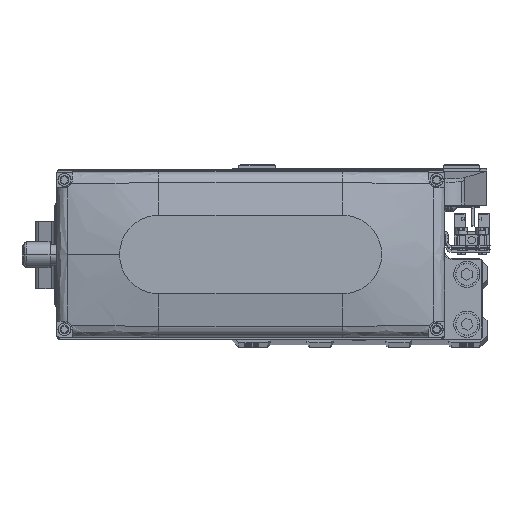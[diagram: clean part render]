
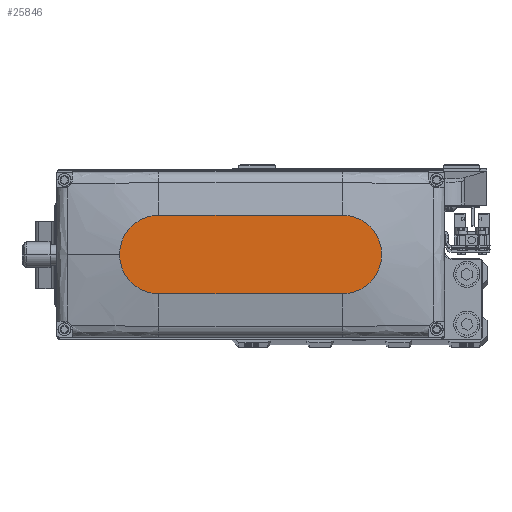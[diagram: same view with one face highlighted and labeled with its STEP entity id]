
A CAD part, top view. The second image highlights one B-rep face of the part: STEP entity #25846.
In plain terms, the highlighted planar face has unit normal (0, 0, 1).
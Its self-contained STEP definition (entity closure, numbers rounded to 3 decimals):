
#1237 = DIRECTION ( 'NONE',  ( 0., 0., 1. ) ) ;
#1908 = DIRECTION ( 'NONE',  ( 1., 0., 0. ) ) ;
#1968 = DIRECTION ( 'NONE',  ( 1., 0., 0. ) ) ;
#2776 = VERTEX_POINT ( 'NONE', #37037 ) ;
#5509 = CARTESIAN_POINT ( 'NONE',  ( -35., -15., 35. ) ) ;
#5570 = PLANE ( 'NONE',  #31199 ) ;
#8304 = VERTEX_POINT ( 'NONE', #27347 ) ;
#8528 = VERTEX_POINT ( 'NONE', #18090 ) ;
#8573 = AXIS2_PLACEMENT_3D ( 'NONE', #20476, #35296, #1968 ) ;
#9529 = ORIENTED_EDGE ( 'NONE', *, *, #33739, .T. ) ;
#11812 = DIRECTION ( 'NONE',  ( -1., 0., 0. ) ) ;
#12254 = AXIS2_PLACEMENT_3D ( 'NONE', #31639, #46534, #13192 ) ;
#13061 = AXIS2_PLACEMENT_3D ( 'NONE', #34557, #1237, #16081 ) ;
#13192 = DIRECTION ( 'NONE',  ( 1., 0., 0. ) ) ;
#13775 = EDGE_LOOP ( 'NONE', ( #35751, #22332, #27199, #45348, #9529 ) ) ;
#13950 = EDGE_CURVE ( 'NONE', #29579, #36269, #33200, .T. ) ;
#14286 = CARTESIAN_POINT ( 'NONE',  ( -35., -15., 35. ) ) ;
#16081 = DIRECTION ( 'NONE',  ( 1., 0., 0. ) ) ;
#18090 = CARTESIAN_POINT ( 'NONE',  ( 50., 0., 35. ) ) ;
#19882 = VECTOR ( 'NONE', #11812, 1000. ) ;
#20413 = CARTESIAN_POINT ( 'NONE',  ( 0., 0., 35. ) ) ;
#20476 = CARTESIAN_POINT ( 'NONE',  ( 35., 0., 35. ) ) ;
#22332 = ORIENTED_EDGE ( 'NONE', *, *, #13950, .T. ) ;
#25846 = ADVANCED_FACE ( 'NONE', ( #38889 ), #5570, .T. ) ;
#26591 = EDGE_CURVE ( 'NONE', #8304, #29579, #30256, .T. ) ;
#27199 = ORIENTED_EDGE ( 'NONE', *, *, #31404, .T. ) ;
#27347 = CARTESIAN_POINT ( 'NONE',  ( 35., 15., 35. ) ) ;
#29093 = DIRECTION ( 'NONE',  ( 1., 0., 0. ) ) ;
#29509 = CIRCLE ( 'NONE', #8573, 15. ) ;
#29579 = VERTEX_POINT ( 'NONE', #42717 ) ;
#30256 = LINE ( 'NONE', #45142, #19882 ) ;
#31199 = AXIS2_PLACEMENT_3D ( 'NONE', #20413, #35235, #1908 ) ;
#31404 = EDGE_CURVE ( 'NONE', #36269, #2776, #47650, .T. ) ;
#31639 = CARTESIAN_POINT ( 'NONE',  ( -35., 0., 35. ) ) ;
#33200 = CIRCLE ( 'NONE', #12254, 15. ) ;
#33739 = EDGE_CURVE ( 'NONE', #8528, #8304, #33997, .T. ) ;
#33997 = CIRCLE ( 'NONE', #13061, 15. ) ;
#34091 = VECTOR ( 'NONE', #29093, 1000. ) ;
#34557 = CARTESIAN_POINT ( 'NONE',  ( 35., 0., 35. ) ) ;
#35235 = DIRECTION ( 'NONE',  ( 0., 0., 1. ) ) ;
#35296 = DIRECTION ( 'NONE',  ( 0., 0., 1. ) ) ;
#35751 = ORIENTED_EDGE ( 'NONE', *, *, #26591, .T. ) ;
#36269 = VERTEX_POINT ( 'NONE', #5509 ) ;
#37037 = CARTESIAN_POINT ( 'NONE',  ( 35., -15., 35. ) ) ;
#38889 = FACE_OUTER_BOUND ( 'NONE', #13775, .T. ) ;
#42515 = EDGE_CURVE ( 'NONE', #2776, #8528, #29509, .T. ) ;
#42717 = CARTESIAN_POINT ( 'NONE',  ( -35., 15., 35. ) ) ;
#45142 = CARTESIAN_POINT ( 'NONE',  ( -35., 15., 35. ) ) ;
#45348 = ORIENTED_EDGE ( 'NONE', *, *, #42515, .T. ) ;
#46534 = DIRECTION ( 'NONE',  ( 0., 0., 1. ) ) ;
#47650 = LINE ( 'NONE', #14286, #34091 ) ;
